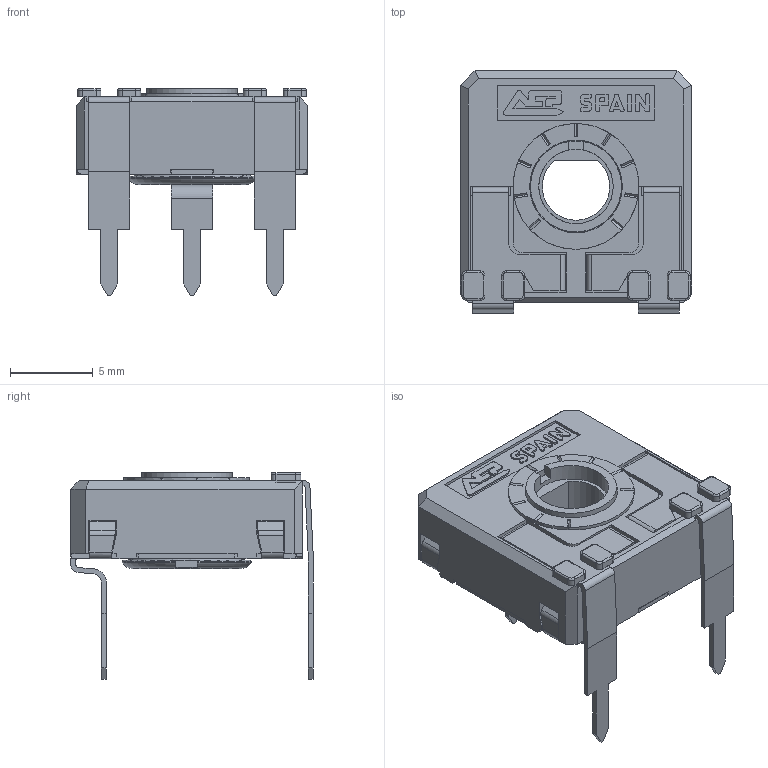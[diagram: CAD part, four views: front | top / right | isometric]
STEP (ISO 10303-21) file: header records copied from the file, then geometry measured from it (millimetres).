
FILE_DESCRIPTION(/* description */ (''),/* implementation_level */ '2;1');
FILE_NAME(/* name */ '\\SERVERACP\intercambio\Ignacio Santa Cecilia\Nueva WEB 2025\CA14 - CE14\CA14DVA12,5.stp',/* time_stamp */ '2025-06-06T09:56:26+02:00',/* author */ ('CEM'),/* organization */ (''),/* preprocessor_version */ 'ST-DEVELOPER v17',/* originating_system */ 'Autodesk Inventor 2018',/* authorisation */ '');
FILE_SCHEMA (('AUTOMOTIVE_DESIGN { 1 0 10303 214 3 1 1 }'));
Length unit declared in the file: millimetre
Products named in the file (1): CARCASA CA14 PGA
Bounding box: 14 x 14.65 x 12.5 mm (x, y, z)
Volume: 536.1 mm3; surface area: 1518.1 mm2
Topology: 1 solids, 1 shells, 680 faces, 1925 edges, 1241 vertices
Faces by surface type: plane 501, cylinder 142, torus 23, bspline 8, cone 6
Full cylindrical faces by diameter (mm): 4.5 x1, 5.5 x1, 5.6 x1, 5.752 x1, 6.8 x1, 7.6 x1
Entity records: 22256 total; most frequent: CARTESIAN_POINT 4144, ORIENTED_EDGE 3850, DIRECTION 3595, EDGE_CURVE 1925, LINE 1511, VECTOR 1511, VERTEX_POINT 1241, AXIS2_PLACEMENT_3D 1042
